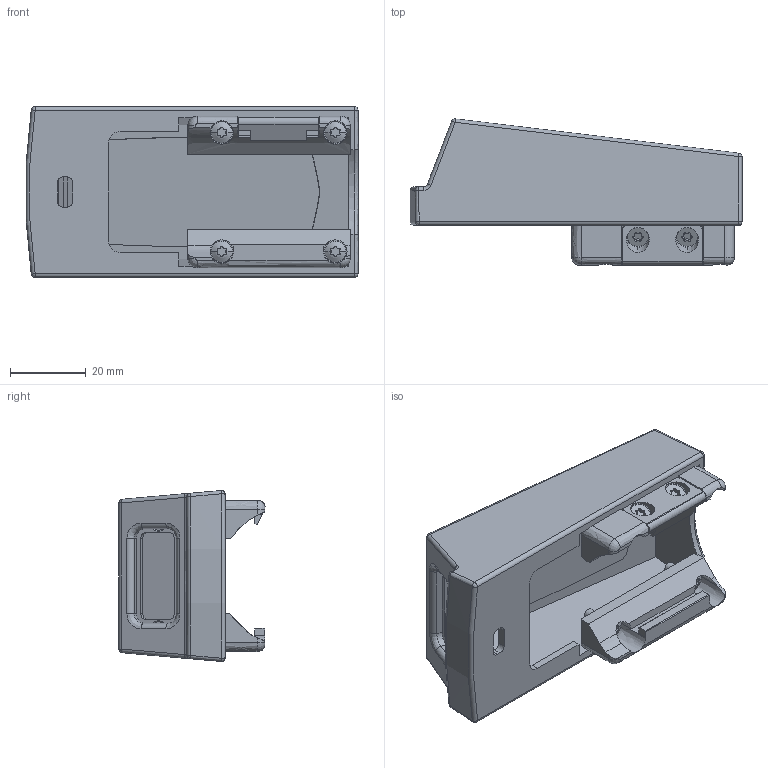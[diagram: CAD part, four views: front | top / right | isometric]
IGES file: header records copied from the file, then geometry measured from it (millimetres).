
Start section:  PTC IGES file: 6158122810.igs
Global section: file name: 6158122810.igs; native system: Creo Parametric by PTC Inc.; preprocessor: 2015200; author: greextsd; organization: Unknown; date: 20151005.100929; units: millimetre
Bounding box: 87.75 x 38.65 x 45.18 mm (x, y, z)
Volume: 30130.2 mm3; surface area: 25061.7 mm2
Topology: 2 solids, 2 shells, 477 faces, 1261 edges, 803 vertices
Faces by surface type: revolution 345, bspline 132
